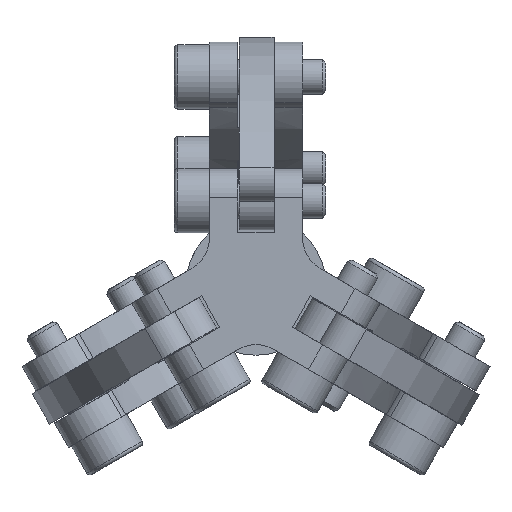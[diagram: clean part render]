
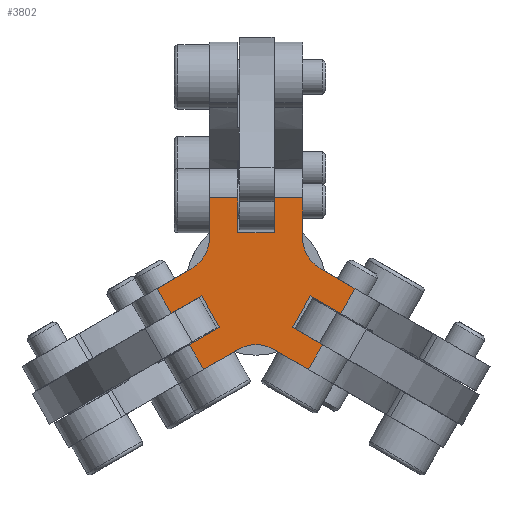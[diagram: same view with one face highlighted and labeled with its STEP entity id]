
A CAD part, front view. The second image highlights one B-rep face of the part: STEP entity #3802.
In plain terms, the highlighted planar face has unit normal (0, -1, 0).
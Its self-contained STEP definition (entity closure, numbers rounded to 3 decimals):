
#925=CIRCLE('',#4138,3.);
#929=CIRCLE('',#4144,3.);
#933=CIRCLE('',#4150,3.);
#1164=PLANE('',#4180);
#1259=FACE_OUTER_BOUND('',#1444,.T.);
#1444=EDGE_LOOP('',(#3066,#3067,#3068,#3069,#3070,#3071,#3072,#3073,#3074,
#3075,#3076,#3077,#3078,#3079,#3080,#3081,#3082,#3083,#3084,#3085,#3086,
#3087,#3088,#3089));
#1629=LINE('',#6190,#1814);
#1633=LINE('',#6207,#1818);
#1637=LINE('',#6224,#1822);
#1662=LINE('',#6325,#1847);
#1663=LINE('',#6331,#1848);
#1664=LINE('',#6334,#1849);
#1665=LINE('',#6339,#1850);
#1666=LINE('',#6345,#1851);
#1667=LINE('',#6348,#1852);
#1668=LINE('',#6350,#1853);
#1669=LINE('',#6352,#1854);
#1670=LINE('',#6353,#1855);
#1671=LINE('',#6355,#1856);
#1672=LINE('',#6357,#1857);
#1673=LINE('',#6359,#1858);
#1674=LINE('',#6361,#1859);
#1675=LINE('',#6363,#1860);
#1676=LINE('',#6364,#1861);
#1677=LINE('',#6365,#1862);
#1678=LINE('',#6367,#1863);
#1679=LINE('',#6368,#1864);
#1814=VECTOR('',#4781,10.);
#1818=VECTOR('',#4797,10.);
#1822=VECTOR('',#4813,10.);
#1847=VECTOR('',#4872,10.);
#1848=VECTOR('',#4879,10.);
#1849=VECTOR('',#4882,10.);
#1850=VECTOR('',#4889,10.);
#1851=VECTOR('',#4896,10.);
#1852=VECTOR('',#4899,10.);
#1853=VECTOR('',#4900,10.);
#1854=VECTOR('',#4901,10.);
#1855=VECTOR('',#4902,10.);
#1856=VECTOR('',#4903,10.);
#1857=VECTOR('',#4904,10.);
#1858=VECTOR('',#4905,10.);
#1859=VECTOR('',#4906,10.);
#1860=VECTOR('',#4907,10.);
#1861=VECTOR('',#4908,10.);
#1862=VECTOR('',#4909,10.);
#1863=VECTOR('',#4910,10.);
#1864=VECTOR('',#4911,10.);
#2090=VERTEX_POINT('',#6180);
#2091=VERTEX_POINT('',#6181);
#2094=VERTEX_POINT('',#6189);
#2097=VERTEX_POINT('',#6197);
#2098=VERTEX_POINT('',#6198);
#2101=VERTEX_POINT('',#6206);
#2104=VERTEX_POINT('',#6214);
#2105=VERTEX_POINT('',#6215);
#2108=VERTEX_POINT('',#6223);
#2136=VERTEX_POINT('',#6321);
#2137=VERTEX_POINT('',#6323);
#2139=VERTEX_POINT('',#6329);
#2140=VERTEX_POINT('',#6333);
#2141=VERTEX_POINT('',#6337);
#2143=VERTEX_POINT('',#6343);
#2144=VERTEX_POINT('',#6347);
#2145=VERTEX_POINT('',#6349);
#2146=VERTEX_POINT('',#6351);
#2147=VERTEX_POINT('',#6354);
#2148=VERTEX_POINT('',#6356);
#2149=VERTEX_POINT('',#6358);
#2150=VERTEX_POINT('',#6360);
#2151=VERTEX_POINT('',#6362);
#2152=VERTEX_POINT('',#6366);
#2426=EDGE_CURVE('',#2090,#2091,#925,.T.);
#2430=EDGE_CURVE('',#2091,#2094,#1629,.T.);
#2434=EDGE_CURVE('',#2097,#2098,#929,.T.);
#2438=EDGE_CURVE('',#2098,#2101,#1633,.T.);
#2442=EDGE_CURVE('',#2104,#2105,#933,.T.);
#2446=EDGE_CURVE('',#2105,#2108,#1637,.T.);
#2485=EDGE_CURVE('',#2136,#2137,#1662,.T.);
#2488=EDGE_CURVE('',#2136,#2139,#1663,.T.);
#2489=EDGE_CURVE('',#2108,#2140,#1664,.T.);
#2492=EDGE_CURVE('',#2141,#2104,#1665,.T.);
#2495=EDGE_CURVE('',#2143,#2141,#1666,.T.);
#2496=EDGE_CURVE('',#2143,#2144,#1667,.T.);
#2497=EDGE_CURVE('',#2144,#2145,#1668,.T.);
#2498=EDGE_CURVE('',#2145,#2146,#1669,.T.);
#2499=EDGE_CURVE('',#2094,#2146,#1670,.T.);
#2500=EDGE_CURVE('',#2147,#2090,#1671,.T.);
#2501=EDGE_CURVE('',#2148,#2147,#1672,.T.);
#2502=EDGE_CURVE('',#2148,#2149,#1673,.T.);
#2503=EDGE_CURVE('',#2149,#2150,#1674,.T.);
#2504=EDGE_CURVE('',#2150,#2151,#1675,.T.);
#2505=EDGE_CURVE('',#2101,#2151,#1676,.T.);
#2506=EDGE_CURVE('',#2139,#2097,#1677,.T.);
#2507=EDGE_CURVE('',#2137,#2152,#1678,.T.);
#2508=EDGE_CURVE('',#2152,#2140,#1679,.T.);
#3066=ORIENTED_EDGE('',*,*,#2489,.F.);
#3067=ORIENTED_EDGE('',*,*,#2446,.F.);
#3068=ORIENTED_EDGE('',*,*,#2442,.F.);
#3069=ORIENTED_EDGE('',*,*,#2492,.F.);
#3070=ORIENTED_EDGE('',*,*,#2495,.F.);
#3071=ORIENTED_EDGE('',*,*,#2496,.T.);
#3072=ORIENTED_EDGE('',*,*,#2497,.T.);
#3073=ORIENTED_EDGE('',*,*,#2498,.T.);
#3074=ORIENTED_EDGE('',*,*,#2499,.F.);
#3075=ORIENTED_EDGE('',*,*,#2430,.F.);
#3076=ORIENTED_EDGE('',*,*,#2426,.F.);
#3077=ORIENTED_EDGE('',*,*,#2500,.F.);
#3078=ORIENTED_EDGE('',*,*,#2501,.F.);
#3079=ORIENTED_EDGE('',*,*,#2502,.T.);
#3080=ORIENTED_EDGE('',*,*,#2503,.T.);
#3081=ORIENTED_EDGE('',*,*,#2504,.T.);
#3082=ORIENTED_EDGE('',*,*,#2505,.F.);
#3083=ORIENTED_EDGE('',*,*,#2438,.F.);
#3084=ORIENTED_EDGE('',*,*,#2434,.F.);
#3085=ORIENTED_EDGE('',*,*,#2506,.F.);
#3086=ORIENTED_EDGE('',*,*,#2488,.F.);
#3087=ORIENTED_EDGE('',*,*,#2485,.T.);
#3088=ORIENTED_EDGE('',*,*,#2507,.T.);
#3089=ORIENTED_EDGE('',*,*,#2508,.T.);
#3802=ADVANCED_FACE('',(#1259),#1164,.F.);
#4138=AXIS2_PLACEMENT_3D('',#6182,#4773,#4774);
#4144=AXIS2_PLACEMENT_3D('',#6199,#4789,#4790);
#4150=AXIS2_PLACEMENT_3D('',#6216,#4805,#4806);
#4180=AXIS2_PLACEMENT_3D('',#6346,#4897,#4898);
#4773=DIRECTION('center_axis',(0.,-1.,0.));
#4774=DIRECTION('ref_axis',(0.5,0.,-0.866));
#4781=DIRECTION('',(0.5,0.,0.866));
#4789=DIRECTION('center_axis',(0.,-1.,0.));
#4790=DIRECTION('ref_axis',(0.5,0.,0.866));
#4797=DIRECTION('',(-1.,0.,0.));
#4805=DIRECTION('center_axis',(0.,-1.,0.));
#4806=DIRECTION('ref_axis',(-1.,0.,0.));
#4813=DIRECTION('',(0.5,0.,-0.866));
#4872=DIRECTION('',(-0.5,0.,0.866));
#4879=DIRECTION('',(-0.866,0.,-0.5));
#4882=DIRECTION('',(-0.866,0.,-0.5));
#4889=DIRECTION('',(-0.5,0.,-0.866));
#4896=DIRECTION('',(0.866,0.,-0.5));
#4897=DIRECTION('center_axis',(0.,1.,0.));
#4898=DIRECTION('ref_axis',(0.,0.,1.));
#4899=DIRECTION('',(-0.5,0.,-0.866));
#4900=DIRECTION('',(-0.866,0.,0.5));
#4901=DIRECTION('',(0.5,0.,0.866));
#4902=DIRECTION('',(0.866,0.,-0.5));
#4903=DIRECTION('',(1.,0.,0.));
#4904=DIRECTION('',(0.,0.,1.));
#4905=DIRECTION('',(1.,0.,0.));
#4906=DIRECTION('',(0.,0.,-1.));
#4907=DIRECTION('',(-1.,0.,0.));
#4908=DIRECTION('',(0.,0.,1.));
#4909=DIRECTION('',(-0.5,0.,0.866));
#4910=DIRECTION('',(0.866,0.,0.5));
#4911=DIRECTION('',(0.5,0.,-0.866));
#6180=CARTESIAN_POINT('',(-4.041,0.,4.));
#6181=CARTESIAN_POINT('',(-1.443,0.,5.5));
#6182=CARTESIAN_POINT('Origin',(-4.041,0.,7.));
#6189=CARTESIAN_POINT('',(0.286,0.,8.495));
#6190=CARTESIAN_POINT('',(-3.464,0.,2.));
#6197=CARTESIAN_POINT('',(-1.443,0.,-5.5));
#6198=CARTESIAN_POINT('',(-4.041,0.,-4.));
#6199=CARTESIAN_POINT('Origin',(-4.041,0.,-7.));
#6206=CARTESIAN_POINT('',(-7.5,0.,-4.));
#6207=CARTESIAN_POINT('',(0.,0.,-4.));
#6214=CARTESIAN_POINT('',(5.485,0.,1.5));
#6215=CARTESIAN_POINT('',(5.485,0.,-1.5));
#6216=CARTESIAN_POINT('Origin',(8.083,0.,0.));
#6223=CARTESIAN_POINT('',(7.214,0.,-4.495));
#6224=CARTESIAN_POINT('',(3.464,0.,2.));
#6321=CARTESIAN_POINT('',(2.408,0.,-7.27));
#6323=CARTESIAN_POINT('',(0.908,0.,-4.672));
#6325=CARTESIAN_POINT('',(-0.313,0.,-2.557));
#6329=CARTESIAN_POINT('',(0.286,0.,-8.495));
#6331=CARTESIAN_POINT('',(5.194,0.,-5.661));
#6333=CARTESIAN_POINT('',(5.092,0.,-5.72));
#6334=CARTESIAN_POINT('',(5.194,0.,-5.661));
#6337=CARTESIAN_POINT('',(7.214,0.,4.495));
#6339=CARTESIAN_POINT('',(8.464,0.,6.66));
#6343=CARTESIAN_POINT('',(5.092,0.,5.72));
#6345=CARTESIAN_POINT('',(1.73,0.,7.661));
#6346=CARTESIAN_POINT('Origin',(-0.768,0.,0.));
#6347=CARTESIAN_POINT('',(3.592,0.,3.122));
#6348=CARTESIAN_POINT('',(2.371,0.,1.007));
#6349=CARTESIAN_POINT('',(0.908,0.,4.672));
#6350=CARTESIAN_POINT('',(1.291,0.,4.451));
#6351=CARTESIAN_POINT('',(2.408,0.,7.27));
#6352=CARTESIAN_POINT('',(1.062,0.,4.939));
#6353=CARTESIAN_POINT('',(1.73,0.,7.661));
#6354=CARTESIAN_POINT('',(-7.5,0.,4.));
#6355=CARTESIAN_POINT('',(-10.,0.,4.));
#6356=CARTESIAN_POINT('',(-7.5,0.,1.55));
#6357=CARTESIAN_POINT('',(-7.5,0.,-2.));
#6358=CARTESIAN_POINT('',(-4.5,0.,1.55));
#6359=CARTESIAN_POINT('',(-2.634,0.,1.55));
#6360=CARTESIAN_POINT('',(-4.5,0.,-1.55));
#6361=CARTESIAN_POINT('',(-4.5,0.,-0.775));
#6362=CARTESIAN_POINT('',(-7.5,0.,-1.55));
#6363=CARTESIAN_POINT('',(-5.384,0.,-1.55));
#6364=CARTESIAN_POINT('',(-7.5,0.,-2.));
#6365=CARTESIAN_POINT('',(1.536,0.,-10.66));
#6366=CARTESIAN_POINT('',(3.592,0.,-3.122));
#6367=CARTESIAN_POINT('',(2.633,0.,-3.676));
#6368=CARTESIAN_POINT('',(3.746,0.,-3.389));
